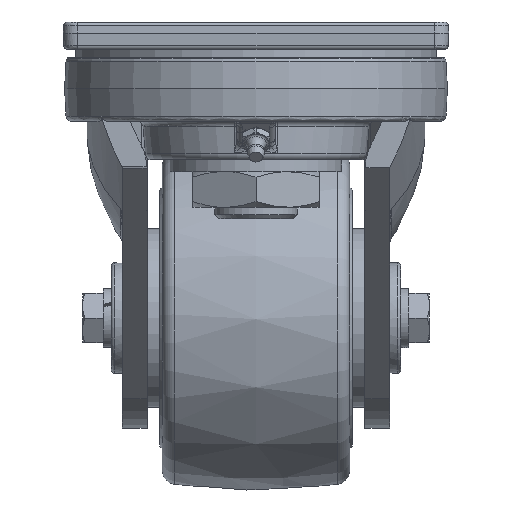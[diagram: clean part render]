
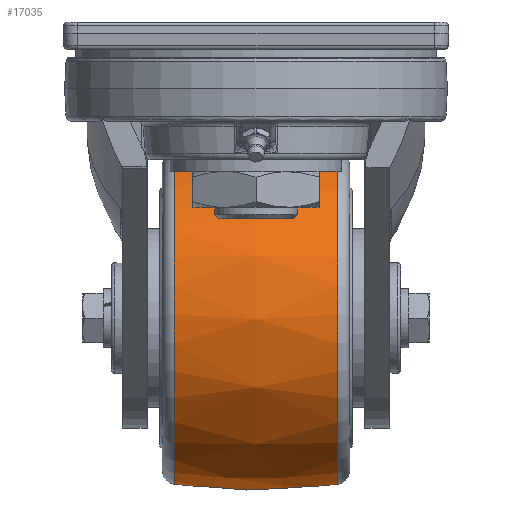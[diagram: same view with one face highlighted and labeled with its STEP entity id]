
A CAD part, left-side view. The second image highlights one B-rep face of the part: STEP entity #17035.
In plain terms, the highlighted free-form (B-spline) face has degree [2, 2] with [3, 9] control points.
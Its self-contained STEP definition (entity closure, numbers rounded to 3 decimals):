
#1183=(
BOUNDED_SURFACE()
B_SPLINE_SURFACE(2,2,((#22640,#22641,#22642,#22643,#22644,#22645,#22646,
#22647,#22648),(#22649,#22650,#22651,#22652,#22653,#22654,#22655,#22656,
#22657),(#22658,#22659,#22660,#22661,#22662,#22663,#22664,#22665,#22666)),
 .UNSPECIFIED.,.F.,.T.,.F.)
B_SPLINE_SURFACE_WITH_KNOTS((3,3),(3,2,2,2,3),(-0.142,0.142),
(-3.142,-1.571,0.,1.571,3.142),
 .UNSPECIFIED.)
GEOMETRIC_REPRESENTATION_ITEM()
RATIONAL_B_SPLINE_SURFACE(((1.,0.707,1.,0.707,1.,
0.707,1.,0.707,1.),(0.99,0.7,
0.99,0.7,0.99,0.7,
0.99,0.7,0.99),(1.,0.707,
1.,0.707,1.,0.707,1.,0.707,1.)))
REPRESENTATION_ITEM('')
SURFACE()
);
#1820=FACE_OUTER_BOUND('',#2805,.T.);
#2805=EDGE_LOOP('',(#11702,#11703,#11704,#11705,#11706,#11707));
#3900=CIRCLE('',#18081,60.388);
#3901=CIRCLE('',#18082,60.388);
#3903=CIRCLE('',#18084,60.388);
#3904=CIRCLE('',#18085,60.388);
#3905=CIRCLE('',#18086,210.);
#7281=VERTEX_POINT('',#22635);
#7282=VERTEX_POINT('',#22636);
#7283=VERTEX_POINT('',#22667);
#7284=VERTEX_POINT('',#22668);
#9032=EDGE_CURVE('',#7281,#7282,#3900,.T.);
#9033=EDGE_CURVE('',#7282,#7281,#3901,.T.);
#9035=EDGE_CURVE('',#7283,#7284,#3903,.T.);
#9036=EDGE_CURVE('',#7284,#7283,#3904,.T.);
#9037=EDGE_CURVE('',#7284,#7282,#3905,.T.);
#11702=ORIENTED_EDGE('',*,*,#9035,.F.);
#11703=ORIENTED_EDGE('',*,*,#9036,.F.);
#11704=ORIENTED_EDGE('',*,*,#9037,.T.);
#11705=ORIENTED_EDGE('',*,*,#9033,.T.);
#11706=ORIENTED_EDGE('',*,*,#9032,.T.);
#11707=ORIENTED_EDGE('',*,*,#9037,.F.);
#17035=ADVANCED_FACE('',(#1820),#1183,.F.);
#18081=AXIS2_PLACEMENT_3D('',#22637,#19144,#19145);
#18082=AXIS2_PLACEMENT_3D('',#22638,#19146,#19147);
#18084=AXIS2_PLACEMENT_3D('',#22669,#19150,#19151);
#18085=AXIS2_PLACEMENT_3D('',#22670,#19152,#19153);
#18086=AXIS2_PLACEMENT_3D('',#22671,#19154,#19155);
#19144=DIRECTION('center_axis',(0.,1.,0.));
#19145=DIRECTION('ref_axis',(0.362,0.,0.932));
#19146=DIRECTION('center_axis',(0.,1.,0.));
#19147=DIRECTION('ref_axis',(0.362,0.,0.932));
#19150=DIRECTION('center_axis',(0.,1.,0.));
#19151=DIRECTION('ref_axis',(0.362,0.,0.932));
#19152=DIRECTION('center_axis',(0.,1.,0.));
#19153=DIRECTION('ref_axis',(0.362,0.,0.932));
#19154=DIRECTION('center_axis',(-0.932,0.,
0.362));
#19155=DIRECTION('ref_axis',(-0.362,0.,-0.932));
#22635=CARTESIAN_POINT('',(133.793,-29.707,-116.36));
#22636=CARTESIAN_POINT('',(55.64,-29.707,-150.793));
#22637=CARTESIAN_POINT('Origin',(77.5,-29.707,-94.5));
#22638=CARTESIAN_POINT('Origin',(77.5,-29.707,-94.5));
#22640=CARTESIAN_POINT('Ctrl Pts',(55.64,-29.707,-150.793));
#22641=CARTESIAN_POINT('Ctrl Pts',(-0.653,-29.707,
-128.933));
#22642=CARTESIAN_POINT('Ctrl Pts',(21.207,-29.707,-72.64));
#22643=CARTESIAN_POINT('Ctrl Pts',(43.067,-29.707,-16.347));
#22644=CARTESIAN_POINT('Ctrl Pts',(99.36,-29.707,-38.207));
#22645=CARTESIAN_POINT('Ctrl Pts',(155.653,-29.707,-60.067));
#22646=CARTESIAN_POINT('Ctrl Pts',(133.793,-29.707,-116.36));
#22647=CARTESIAN_POINT('Ctrl Pts',(111.933,-29.707,-172.653));
#22648=CARTESIAN_POINT('Ctrl Pts',(55.64,-29.707,-150.793));
#22649=CARTESIAN_POINT('Ctrl Pts',(54.103,0.,
-154.75));
#22650=CARTESIAN_POINT('Ctrl Pts',(-6.147,0.,
-131.354));
#22651=CARTESIAN_POINT('Ctrl Pts',(17.25,0.,
-71.103));
#22652=CARTESIAN_POINT('Ctrl Pts',(40.646,0.,
-10.853));
#22653=CARTESIAN_POINT('Ctrl Pts',(100.897,0.,
-34.25));
#22654=CARTESIAN_POINT('Ctrl Pts',(161.147,0.,
-57.646));
#22655=CARTESIAN_POINT('Ctrl Pts',(137.75,0.,
-117.897));
#22656=CARTESIAN_POINT('Ctrl Pts',(114.354,0.,
-178.147));
#22657=CARTESIAN_POINT('Ctrl Pts',(54.103,0.,
-154.75));
#22658=CARTESIAN_POINT('Ctrl Pts',(55.64,29.707,-150.793));
#22659=CARTESIAN_POINT('Ctrl Pts',(-0.653,29.707,
-128.933));
#22660=CARTESIAN_POINT('Ctrl Pts',(21.207,29.707,-72.64));
#22661=CARTESIAN_POINT('Ctrl Pts',(43.067,29.707,-16.347));
#22662=CARTESIAN_POINT('Ctrl Pts',(99.36,29.707,-38.207));
#22663=CARTESIAN_POINT('Ctrl Pts',(155.653,29.707,-60.067));
#22664=CARTESIAN_POINT('Ctrl Pts',(133.793,29.707,-116.36));
#22665=CARTESIAN_POINT('Ctrl Pts',(111.933,29.707,-172.653));
#22666=CARTESIAN_POINT('Ctrl Pts',(55.64,29.707,-150.793));
#22667=CARTESIAN_POINT('',(133.793,29.707,-116.36));
#22668=CARTESIAN_POINT('',(55.64,29.707,-150.793));
#22669=CARTESIAN_POINT('Origin',(77.5,29.707,-94.5));
#22670=CARTESIAN_POINT('Origin',(77.5,29.707,-94.5));
#22671=CARTESIAN_POINT('Origin',(130.893,0.,
42.997));
